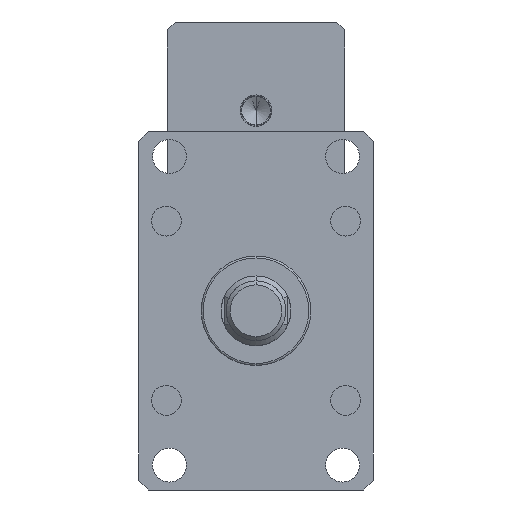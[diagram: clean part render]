
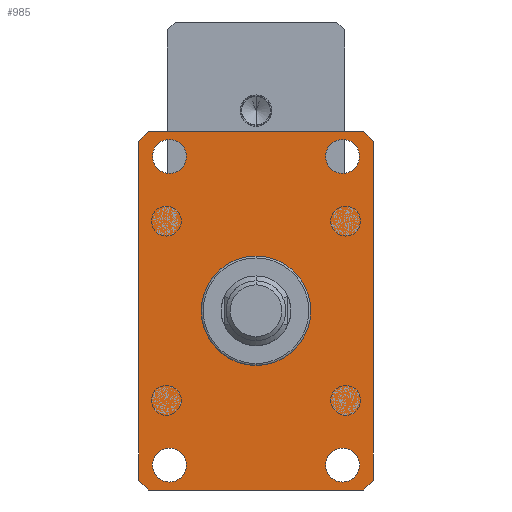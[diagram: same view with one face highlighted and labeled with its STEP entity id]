
A CAD part, front view. The second image highlights one B-rep face of the part: STEP entity #985.
In plain terms, the highlighted planar face has unit normal (0, -1, 0).
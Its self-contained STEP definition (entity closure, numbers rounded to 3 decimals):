
#383 = DIRECTION ( 'NONE',  ( 0., 0., -1. ) ) ;
#399 = LINE ( 'NONE', #12261, #4896 ) ;
#745 = EDGE_CURVE ( 'NONE', #4137, #6720, #7332, .T. ) ;
#821 = FACE_OUTER_BOUND ( 'NONE', #1902, .T. ) ;
#985 = ADVANCED_FACE ( 'NONE', ( #8526, #1111, #3375, #821, #10811 ), #5448, .F. ) ;
#1111 = FACE_BOUND ( 'NONE', #1586, .T. ) ;
#1121 = VECTOR ( 'NONE', #4326, 1000. ) ;
#1225 = DIRECTION ( 'NONE',  ( 0., 1., 0. ) ) ;
#1295 = CARTESIAN_POINT ( 'NONE',  ( 54., -55., 90. ) ) ;
#1559 = CIRCLE ( 'NONE', #7283, 8.5 ) ;
#1583 = VERTEX_POINT ( 'NONE', #1295 ) ;
#1586 = EDGE_LOOP ( 'NONE', ( #1745, #7419 ) ) ;
#1745 = ORIENTED_EDGE ( 'NONE', *, *, #10382, .T. ) ;
#1789 = ORIENTED_EDGE ( 'NONE', *, *, #6204, .F. ) ;
#1832 = CARTESIAN_POINT ( 'NONE',  ( -54., -55., -90. ) ) ;
#1902 = EDGE_LOOP ( 'NONE', ( #10194, #8286, #7438, #9634, #10950, #2369, #2474, #8318 ) ) ;
#1953 = EDGE_CURVE ( 'NONE', #11363, #2747, #3481, .T. ) ;
#2112 = ORIENTED_EDGE ( 'NONE', *, *, #3144, .F. ) ;
#2115 = VERTEX_POINT ( 'NONE', #2952 ) ;
#2349 = EDGE_CURVE ( 'NONE', #6558, #1583, #10675, .T. ) ;
#2369 = ORIENTED_EDGE ( 'NONE', *, *, #1953, .T. ) ;
#2474 = ORIENTED_EDGE ( 'NONE', *, *, #8180, .T. ) ;
#2493 = EDGE_CURVE ( 'NONE', #8949, #11570, #4588, .T. ) ;
#2536 = EDGE_CURVE ( 'NONE', #1583, #7033, #3678, .T. ) ;
#2583 = CARTESIAN_POINT ( 'NONE',  ( 59., -55., 90. ) ) ;
#2659 = DIRECTION ( 'NONE',  ( 0.707, 0., -0.707 ) ) ;
#2666 = CARTESIAN_POINT ( 'NONE',  ( 59., -55., 85. ) ) ;
#2747 = VERTEX_POINT ( 'NONE', #3801 ) ;
#2749 = EDGE_LOOP ( 'NONE', ( #1789, #2112 ) ) ;
#2952 = CARTESIAN_POINT ( 'NONE',  ( -43.5, -55., 86. ) ) ;
#2970 = LINE ( 'NONE', #8453, #8132 ) ;
#3109 = CARTESIAN_POINT ( 'NONE',  ( 54., -55., 90. ) ) ;
#3144 = EDGE_CURVE ( 'NONE', #6781, #2115, #10804, .T. ) ;
#3245 = VECTOR ( 'NONE', #10874, 1000. ) ;
#3359 = CIRCLE ( 'NONE', #11919, 8.5 ) ;
#3375 = FACE_BOUND ( 'NONE', #11147, .T. ) ;
#3481 = LINE ( 'NONE', #7486, #3775 ) ;
#3491 = DIRECTION ( 'NONE',  ( 0., 1., 0. ) ) ;
#3559 = DIRECTION ( 'NONE',  ( 0., 0., 1. ) ) ;
#3678 = LINE ( 'NONE', #11131, #1121 ) ;
#3727 = EDGE_CURVE ( 'NONE', #11570, #8949, #3359, .T. ) ;
#3775 = VECTOR ( 'NONE', #4546, 1000. ) ;
#3801 = CARTESIAN_POINT ( 'NONE',  ( 59., -55., -85. ) ) ;
#3987 = AXIS2_PLACEMENT_3D ( 'NONE', #5215, #12025, #6190 ) ;
#4059 = EDGE_CURVE ( 'NONE', #10505, #6871, #2970, .T. ) ;
#4137 = VERTEX_POINT ( 'NONE', #10482 ) ;
#4299 = DIRECTION ( 'NONE',  ( 0., -1., 0. ) ) ;
#4319 = VERTEX_POINT ( 'NONE', #6952 ) ;
#4326 = DIRECTION ( 'NONE',  ( -1., 0., 0. ) ) ;
#4474 = CARTESIAN_POINT ( 'NONE',  ( -43.5, -55., 77.5 ) ) ;
#4546 = DIRECTION ( 'NONE',  ( 0.707, 0., 0.707 ) ) ;
#4588 = CIRCLE ( 'NONE', #3987, 8.5 ) ;
#4821 = CARTESIAN_POINT ( 'NONE',  ( -59., -55., 85. ) ) ;
#4896 = VECTOR ( 'NONE', #5441, 1000. ) ;
#4948 = DIRECTION ( 'NONE',  ( 0., -1., 0. ) ) ;
#5033 = CIRCLE ( 'NONE', #8647, 8.5 ) ;
#5215 = CARTESIAN_POINT ( 'NONE',  ( -43.5, -55., -77.5 ) ) ;
#5224 = CARTESIAN_POINT ( 'NONE',  ( 59., -55., 85. ) ) ;
#5439 = DIRECTION ( 'NONE',  ( 0., 0., -1. ) ) ;
#5441 = DIRECTION ( 'NONE',  ( 0., 0., -1. ) ) ;
#5448 = PLANE ( 'NONE',  #7393 ) ;
#5549 = DIRECTION ( 'NONE',  ( 0., 1., 0. ) ) ;
#5610 = LINE ( 'NONE', #4821, #9865 ) ;
#5645 = EDGE_CURVE ( 'NONE', #4319, #11235, #9460, .T. ) ;
#5977 = ORIENTED_EDGE ( 'NONE', *, *, #11920, .F. ) ;
#6156 = DIRECTION ( 'NONE',  ( 0., -1., 0. ) ) ;
#6190 = DIRECTION ( 'NONE',  ( 0., 0., 1. ) ) ;
#6204 = EDGE_CURVE ( 'NONE', #2115, #6781, #1559, .T. ) ;
#6313 = AXIS2_PLACEMENT_3D ( 'NONE', #11980, #6156, #383 ) ;
#6335 = AXIS2_PLACEMENT_3D ( 'NONE', #9294, #3491, #10285 ) ;
#6337 = ORIENTED_EDGE ( 'NONE', *, *, #5645, .F. ) ;
#6372 = CIRCLE ( 'NONE', #6313, 8.5 ) ;
#6391 = VERTEX_POINT ( 'NONE', #11785 ) ;
#6558 = VERTEX_POINT ( 'NONE', #5224 ) ;
#6704 = EDGE_LOOP ( 'NONE', ( #6337, #5977 ) ) ;
#6720 = VERTEX_POINT ( 'NONE', #8368 ) ;
#6781 = VERTEX_POINT ( 'NONE', #10402 ) ;
#6871 = VERTEX_POINT ( 'NONE', #1832 ) ;
#6899 = EDGE_CURVE ( 'NONE', #6871, #11363, #9896, .T. ) ;
#6952 = CARTESIAN_POINT ( 'NONE',  ( 43.5, -55., 86. ) ) ;
#7004 = VECTOR ( 'NONE', #9579, 1000. ) ;
#7010 = CARTESIAN_POINT ( 'NONE',  ( -43.5, -55., -77.5 ) ) ;
#7033 = VERTEX_POINT ( 'NONE', #7847 ) ;
#7283 = AXIS2_PLACEMENT_3D ( 'NONE', #4474, #11268, #5439 ) ;
#7332 = CIRCLE ( 'NONE', #6335, 8.5 ) ;
#7393 = AXIS2_PLACEMENT_3D ( 'NONE', #2583, #9351, #3559 ) ;
#7419 = ORIENTED_EDGE ( 'NONE', *, *, #745, .T. ) ;
#7438 = ORIENTED_EDGE ( 'NONE', *, *, #8710, .T. ) ;
#7486 = CARTESIAN_POINT ( 'NONE',  ( 59., -55., -85. ) ) ;
#7847 = CARTESIAN_POINT ( 'NONE',  ( -54., -55., 90. ) ) ;
#7999 = DIRECTION ( 'NONE',  ( 0., 0., 1. ) ) ;
#8132 = VECTOR ( 'NONE', #2659, 1000. ) ;
#8180 = EDGE_CURVE ( 'NONE', #2747, #6558, #10391, .T. ) ;
#8286 = ORIENTED_EDGE ( 'NONE', *, *, #11780, .T. ) ;
#8318 = ORIENTED_EDGE ( 'NONE', *, *, #2349, .T. ) ;
#8368 = CARTESIAN_POINT ( 'NONE',  ( 43.5, -55., -69. ) ) ;
#8397 = ORIENTED_EDGE ( 'NONE', *, *, #2493, .T. ) ;
#8453 = CARTESIAN_POINT ( 'NONE',  ( -59., -55., -85. ) ) ;
#8468 = AXIS2_PLACEMENT_3D ( 'NONE', #10111, #4299, #11091 ) ;
#8526 = FACE_BOUND ( 'NONE', #2749, .T. ) ;
#8647 = AXIS2_PLACEMENT_3D ( 'NONE', #11369, #5549, #12364 ) ;
#8648 = CARTESIAN_POINT ( 'NONE',  ( -54., -55., -90. ) ) ;
#8710 = EDGE_CURVE ( 'NONE', #6391, #10505, #399, .T. ) ;
#8736 = CARTESIAN_POINT ( 'NONE',  ( -59., -55., -85. ) ) ;
#8746 = DIRECTION ( 'NONE',  ( -0.707, 0., -0.707 ) ) ;
#8949 = VERTEX_POINT ( 'NONE', #9725 ) ;
#9169 = CARTESIAN_POINT ( 'NONE',  ( -43.5, -55., -86. ) ) ;
#9294 = CARTESIAN_POINT ( 'NONE',  ( 43.5, -55., -77.5 ) ) ;
#9306 = AXIS2_PLACEMENT_3D ( 'NONE', #10773, #4948, #11777 ) ;
#9351 = DIRECTION ( 'NONE',  ( 0., 1., 0. ) ) ;
#9460 = CIRCLE ( 'NONE', #9306, 8.5 ) ;
#9513 = CARTESIAN_POINT ( 'NONE',  ( 43.5, -55., 69. ) ) ;
#9579 = DIRECTION ( 'NONE',  ( 1., 0., 0. ) ) ;
#9634 = ORIENTED_EDGE ( 'NONE', *, *, #4059, .T. ) ;
#9725 = CARTESIAN_POINT ( 'NONE',  ( -43.5, -55., -69. ) ) ;
#9821 = CARTESIAN_POINT ( 'NONE',  ( 54., -55., -90. ) ) ;
#9865 = VECTOR ( 'NONE', #8746, 1000. ) ;
#9896 = LINE ( 'NONE', #8648, #7004 ) ;
#10086 = VECTOR ( 'NONE', #11359, 1000. ) ;
#10111 = CARTESIAN_POINT ( 'NONE',  ( -43.5, -55., 77.5 ) ) ;
#10194 = ORIENTED_EDGE ( 'NONE', *, *, #2536, .T. ) ;
#10285 = DIRECTION ( 'NONE',  ( 0., 0., 1. ) ) ;
#10382 = EDGE_CURVE ( 'NONE', #6720, #4137, #5033, .T. ) ;
#10391 = LINE ( 'NONE', #2666, #10086 ) ;
#10402 = CARTESIAN_POINT ( 'NONE',  ( -43.5, -55., 69. ) ) ;
#10482 = CARTESIAN_POINT ( 'NONE',  ( 43.5, -55., -86. ) ) ;
#10505 = VERTEX_POINT ( 'NONE', #8736 ) ;
#10675 = LINE ( 'NONE', #3109, #3245 ) ;
#10773 = CARTESIAN_POINT ( 'NONE',  ( 43.5, -55., 77.5 ) ) ;
#10804 = CIRCLE ( 'NONE', #8468, 8.5 ) ;
#10811 = FACE_BOUND ( 'NONE', #6704, .T. ) ;
#10874 = DIRECTION ( 'NONE',  ( -0.707, 0., 0.707 ) ) ;
#10950 = ORIENTED_EDGE ( 'NONE', *, *, #6899, .T. ) ;
#11091 = DIRECTION ( 'NONE',  ( 0., 0., -1. ) ) ;
#11092 = ORIENTED_EDGE ( 'NONE', *, *, #3727, .T. ) ;
#11131 = CARTESIAN_POINT ( 'NONE',  ( -54., -55., 90. ) ) ;
#11147 = EDGE_LOOP ( 'NONE', ( #8397, #11092 ) ) ;
#11235 = VERTEX_POINT ( 'NONE', #9513 ) ;
#11268 = DIRECTION ( 'NONE',  ( 0., -1., 0. ) ) ;
#11359 = DIRECTION ( 'NONE',  ( 0., 0., 1. ) ) ;
#11363 = VERTEX_POINT ( 'NONE', #9821 ) ;
#11369 = CARTESIAN_POINT ( 'NONE',  ( 43.5, -55., -77.5 ) ) ;
#11570 = VERTEX_POINT ( 'NONE', #9169 ) ;
#11777 = DIRECTION ( 'NONE',  ( 0., 0., -1. ) ) ;
#11780 = EDGE_CURVE ( 'NONE', #7033, #6391, #5610, .T. ) ;
#11785 = CARTESIAN_POINT ( 'NONE',  ( -59., -55., 85. ) ) ;
#11919 = AXIS2_PLACEMENT_3D ( 'NONE', #7010, #1225, #7999 ) ;
#11920 = EDGE_CURVE ( 'NONE', #11235, #4319, #6372, .T. ) ;
#11980 = CARTESIAN_POINT ( 'NONE',  ( 43.5, -55., 77.5 ) ) ;
#12025 = DIRECTION ( 'NONE',  ( 0., 1., 0. ) ) ;
#12261 = CARTESIAN_POINT ( 'NONE',  ( -59., -55., 85. ) ) ;
#12364 = DIRECTION ( 'NONE',  ( 0., 0., 1. ) ) ;
